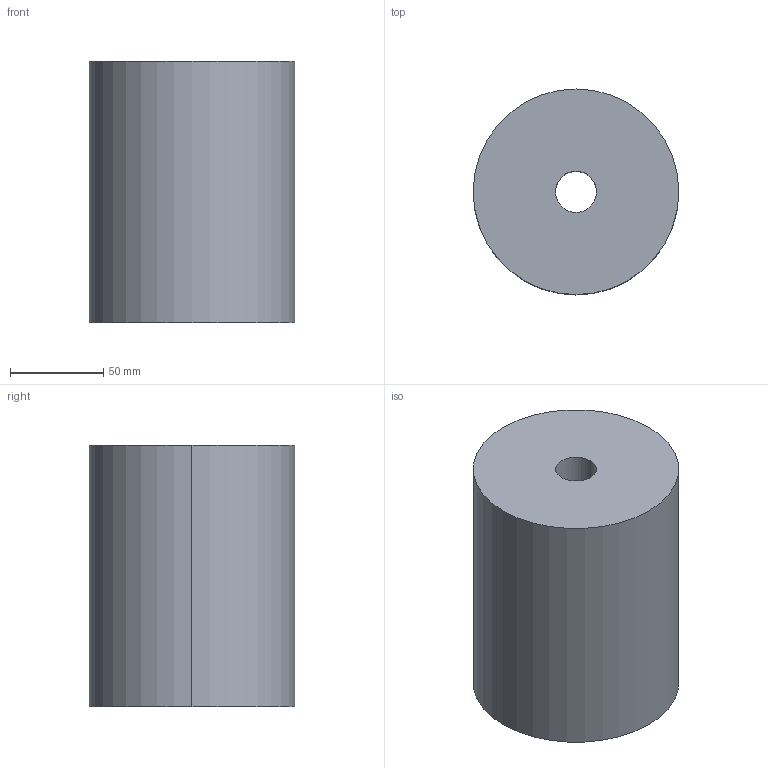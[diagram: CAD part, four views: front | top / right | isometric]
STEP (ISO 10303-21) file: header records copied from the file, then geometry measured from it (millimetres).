
FILE_DESCRIPTION(/* description */ (''),/* implementation_level */ '2;1');
FILE_NAME(/* name */ '3d_e110-140_03703_r00.stp',/* time_stamp */ '2011-01-10T14:15:49+09:00',/* author */ ('MISUMI'),/* organization */ (''),/* preprocessor_version */ 'ST-DEVELOPER v11',/* originating_system */ 'UGS - NX 5.0',/* authorisation */ '');
FILE_SCHEMA (('CONFIG_CONTROL_DESIGN'));
Length unit declared in the file: millimetre
Products named in the file (1): 3d_e110-140_03703_r00
Bounding box: 110 x 110 x 140 mm (x, y, z)
Volume: 1277245.9 mm3; surface area: 76303 mm2
Topology: 1 solids, 1 shells, 6 faces, 12 edges, 8 vertices
Faces by surface type: cylinder 4, plane 2
Entity records: 254 total; most frequent: DIRECTION 34, CARTESIAN_POINT 27, ORIENTED_EDGE 24, AXIS2_PLACEMENT_3D 15, EDGE_CURVE 12, EDGE_LOOP 8, VERTEX_POINT 8, CIRCLE 8
